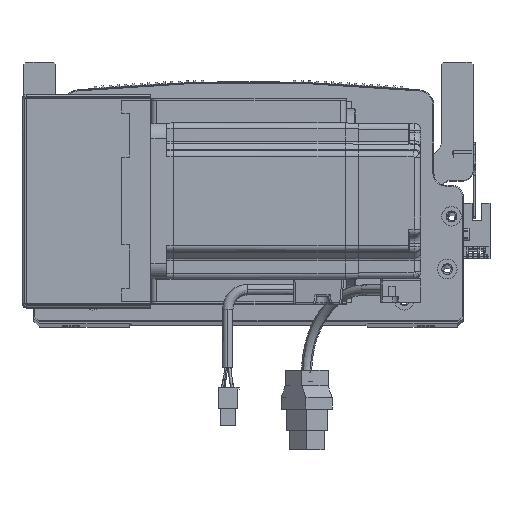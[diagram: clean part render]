
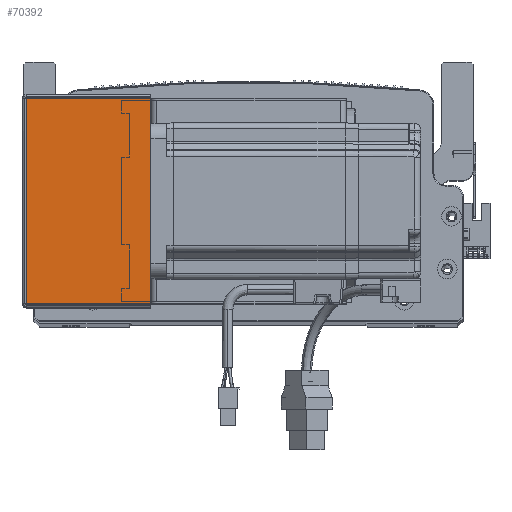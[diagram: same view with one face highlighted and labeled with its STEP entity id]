
A CAD part, top view. The second image highlights one B-rep face of the part: STEP entity #70392.
In plain terms, the highlighted planar face has unit normal (0, 0, 1) as drawn and (0, 0, -1) by its records, which use the part's own axes.
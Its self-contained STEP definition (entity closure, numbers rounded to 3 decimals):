
#138 = FACE_OUTER_BOUND ( 'NONE', #57348, .T. ) ;
#682 = CARTESIAN_POINT ( 'NONE',  ( 0.737, 0.707, -205.5 ) ) ;
#3253 = ORIENTED_EDGE ( 'NONE', *, *, #79810, .F. ) ;
#4082 = VECTOR ( 'NONE', #79015, 1000. ) ;
#5643 = LINE ( 'NONE', #25407, #8687 ) ;
#7576 = CARTESIAN_POINT ( 'NONE',  ( 0.737, 0., -205.5 ) ) ;
#8687 = VECTOR ( 'NONE', #25127, 1000. ) ;
#15160 = CARTESIAN_POINT ( 'NONE',  ( 0., 105.293, -205.5 ) ) ;
#17130 = EDGE_CURVE ( 'NONE', #53890, #48643, #45210, .T. ) ;
#19057 = LINE ( 'NONE', #15160, #69511 ) ;
#21181 = ORIENTED_EDGE ( 'NONE', *, *, #83356, .T. ) ;
#25127 = DIRECTION ( 'NONE',  ( 1., 0., 0. ) ) ;
#25407 = CARTESIAN_POINT ( 'NONE',  ( 0., 0.707, -205.5 ) ) ;
#36337 = PLANE ( 'NONE',  #63836 ) ;
#36964 = VECTOR ( 'NONE', #46373, 1000. ) ;
#39514 = CARTESIAN_POINT ( 'NONE',  ( 64.5, 0., -205.5 ) ) ;
#44435 = VERTEX_POINT ( 'NONE', #73406 ) ;
#45210 = LINE ( 'NONE', #7576, #36964 ) ;
#45239 = LINE ( 'NONE', #39514, #4082 ) ;
#46373 = DIRECTION ( 'NONE',  ( 0., -1., 0. ) ) ;
#47131 = ORIENTED_EDGE ( 'NONE', *, *, #76370, .T. ) ;
#48643 = VERTEX_POINT ( 'NONE', #682 ) ;
#50159 = CARTESIAN_POINT ( 'NONE',  ( 0., 0., -205.5 ) ) ;
#53890 = VERTEX_POINT ( 'NONE', #75812 ) ;
#56263 = VERTEX_POINT ( 'NONE', #73134 ) ;
#57348 = EDGE_LOOP ( 'NONE', ( #77732, #47131, #21181, #3253 ) ) ;
#62034 = DIRECTION ( 'NONE',  ( 1., 0., 0. ) ) ;
#62547 = DIRECTION ( 'NONE',  ( 1., 0., 0. ) ) ;
#63836 = AXIS2_PLACEMENT_3D ( 'NONE', #50159, #76051, #62547 ) ;
#69511 = VECTOR ( 'NONE', #62034, 1000. ) ;
#70392 = ADVANCED_FACE ( 'NONE', ( #138 ), #36337, .F. ) ;
#73134 = CARTESIAN_POINT ( 'NONE',  ( 64.5, 105.293, -205.5 ) ) ;
#73406 = CARTESIAN_POINT ( 'NONE',  ( 64.5, 0.707, -205.5 ) ) ;
#75812 = CARTESIAN_POINT ( 'NONE',  ( 0.737, 105.293, -205.5 ) ) ;
#76051 = DIRECTION ( 'NONE',  ( 0., 0., 1. ) ) ;
#76370 = EDGE_CURVE ( 'NONE', #53890, #56263, #19057, .T. ) ;
#77732 = ORIENTED_EDGE ( 'NONE', *, *, #17130, .F. ) ;
#79015 = DIRECTION ( 'NONE',  ( 0., -1., 0. ) ) ;
#79810 = EDGE_CURVE ( 'NONE', #48643, #44435, #5643, .T. ) ;
#83356 = EDGE_CURVE ( 'NONE', #56263, #44435, #45239, .T. ) ;
